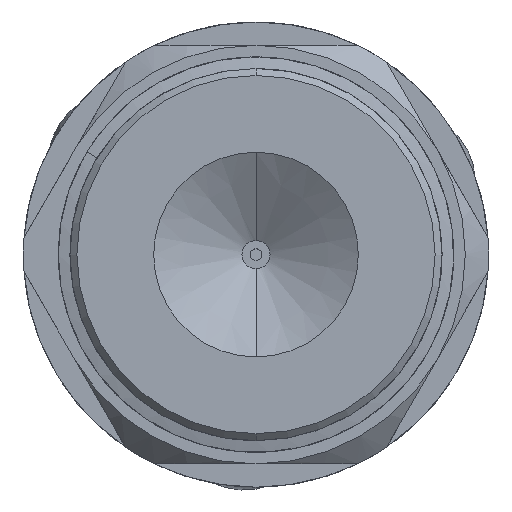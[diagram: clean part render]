
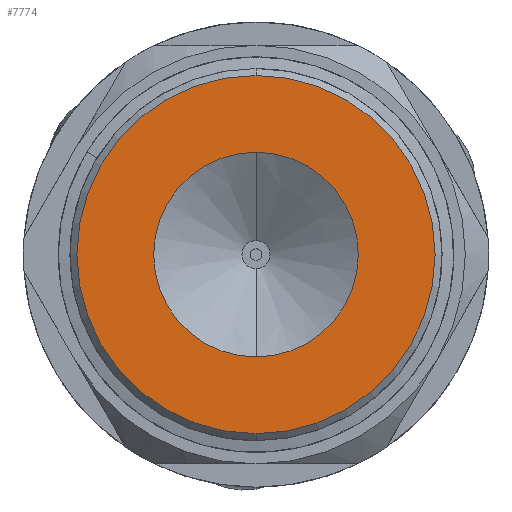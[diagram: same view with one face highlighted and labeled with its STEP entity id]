
A CAD part, front view. The second image highlights one B-rep face of the part: STEP entity #7774.
In plain terms, the highlighted planar face has unit normal (0, -1, 0).
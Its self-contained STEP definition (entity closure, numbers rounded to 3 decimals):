
#562 = DIRECTION ( 'NONE',  ( 0., -1., 0. ) ) ;
#971 = ORIENTED_EDGE ( 'NONE', *, *, #6122, .F. ) ;
#1372 = DIRECTION ( 'NONE',  ( 0., 1., 0. ) ) ;
#2390 = VERTEX_POINT ( 'NONE', #16752 ) ;
#2858 = DIRECTION ( 'NONE',  ( 0., 1., 0. ) ) ;
#3060 = CIRCLE ( 'NONE', #4424, 7.7 ) ;
#3365 = EDGE_CURVE ( 'NONE', #2390, #10795, #4158, .T. ) ;
#3541 = EDGE_CURVE ( 'NONE', #10795, #2390, #6479, .T. ) ;
#3921 = FACE_OUTER_BOUND ( 'NONE', #17079, .T. ) ;
#3972 = ORIENTED_EDGE ( 'NONE', *, *, #3365, .F. ) ;
#4158 = CIRCLE ( 'NONE', #4630, 4.4 ) ;
#4223 = AXIS2_PLACEMENT_3D ( 'NONE', #15280, #7216, #16648 ) ;
#4424 = AXIS2_PLACEMENT_3D ( 'NONE', #10948, #2858, #12299 ) ;
#4630 = AXIS2_PLACEMENT_3D ( 'NONE', #8660, #562, #10019 ) ;
#6122 = EDGE_CURVE ( 'NONE', #17345, #14670, #3060, .T. ) ;
#6479 = CIRCLE ( 'NONE', #15475, 4.4 ) ;
#7216 = DIRECTION ( 'NONE',  ( 0., 1., 0. ) ) ;
#7699 = CARTESIAN_POINT ( 'NONE',  ( -17.402, -35.712, 46. ) ) ;
#7774 = ADVANCED_FACE ( 'NONE', ( #3921, #14673 ), #17537, .F. ) ;
#8034 = EDGE_CURVE ( 'NONE', #14670, #17345, #12159, .T. ) ;
#8607 = CARTESIAN_POINT ( 'NONE',  ( -17.402, -35.712, 38.3 ) ) ;
#8660 = CARTESIAN_POINT ( 'NONE',  ( -17.402, -35.712, 46. ) ) ;
#9064 = DIRECTION ( 'NONE',  ( 1., 0., 0. ) ) ;
#9319 = ORIENTED_EDGE ( 'NONE', *, *, #8034, .F. ) ;
#9460 = CARTESIAN_POINT ( 'NONE',  ( -28.108, -35.712, 43.389 ) ) ;
#10019 = DIRECTION ( 'NONE',  ( 1., 0., 0. ) ) ;
#10795 = VERTEX_POINT ( 'NONE', #14915 ) ;
#10830 = DIRECTION ( 'NONE',  ( 0., 0., 1. ) ) ;
#10948 = CARTESIAN_POINT ( 'NONE',  ( -17.402, -35.712, 46. ) ) ;
#12159 = CIRCLE ( 'NONE', #4223, 7.7 ) ;
#12299 = DIRECTION ( 'NONE',  ( 0., 0., 1. ) ) ;
#14501 = AXIS2_PLACEMENT_3D ( 'NONE', #9460, #1372, #10830 ) ;
#14518 = ORIENTED_EDGE ( 'NONE', *, *, #3541, .F. ) ;
#14670 = VERTEX_POINT ( 'NONE', #8607 ) ;
#14673 = FACE_BOUND ( 'NONE', #14733, .T. ) ;
#14733 = EDGE_LOOP ( 'NONE', ( #3972, #14518 ) ) ;
#14915 = CARTESIAN_POINT ( 'NONE',  ( -21.802, -35.712, 46. ) ) ;
#15280 = CARTESIAN_POINT ( 'NONE',  ( -17.402, -35.712, 46. ) ) ;
#15475 = AXIS2_PLACEMENT_3D ( 'NONE', #7699, #17138, #9064 ) ;
#16648 = DIRECTION ( 'NONE',  ( 0., 0., 1. ) ) ;
#16752 = CARTESIAN_POINT ( 'NONE',  ( -13.002, -35.712, 46. ) ) ;
#16855 = CARTESIAN_POINT ( 'NONE',  ( -17.402, -35.712, 53.7 ) ) ;
#17079 = EDGE_LOOP ( 'NONE', ( #971, #9319 ) ) ;
#17138 = DIRECTION ( 'NONE',  ( 0., -1., 0. ) ) ;
#17345 = VERTEX_POINT ( 'NONE', #16855 ) ;
#17537 = PLANE ( 'NONE',  #14501 ) ;
